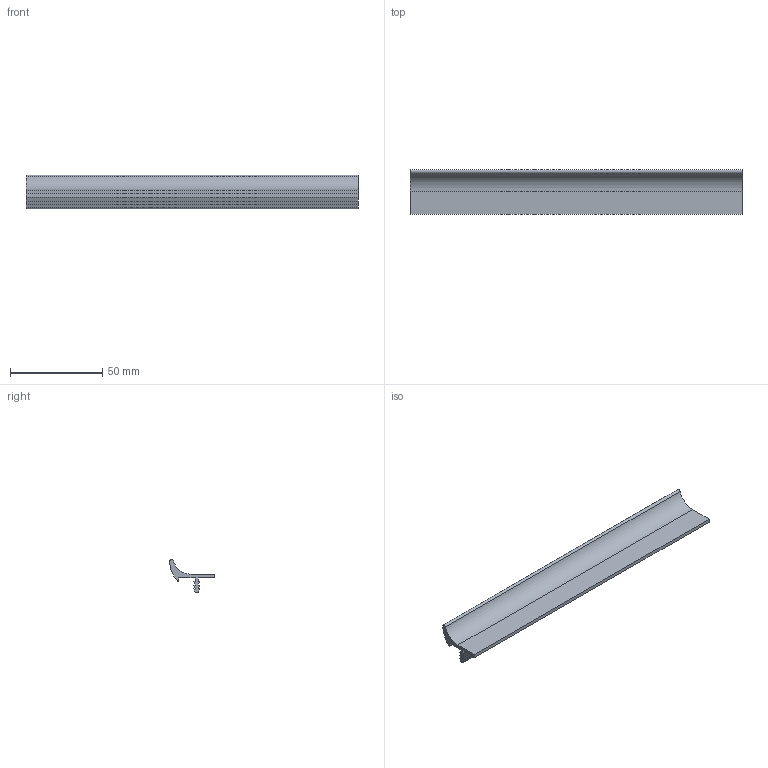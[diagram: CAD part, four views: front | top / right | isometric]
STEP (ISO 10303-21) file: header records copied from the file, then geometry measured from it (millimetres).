
FILE_DESCRIPTION(('Unknown'),'2;1');
FILE_NAME('','Unknown',('Unknown'),('Unknown'),'','Unknown','');
FILE_SCHEMA(('CONFIG_CONTROL_DESIGN'));
Length unit declared in the file: millimetre
Bounding box: 180 x 24.2 x 17.99 mm (x, y, z)
Volume: 17000.6 mm3; surface area: 15509.9 mm2
Topology: 1 solids, 1 shells, 26 faces, 72 edges, 48 vertices
Faces by surface type: plane 21, cylinder 5
Entity records: 916 total; most frequent: CARTESIAN_POINT 147, ORIENTED_EDGE 144, DIRECTION 136, EDGE_CURVE 72, LINE 62, VECTOR 62, VERTEX_POINT 48, AXIS2_PLACEMENT_3D 37
